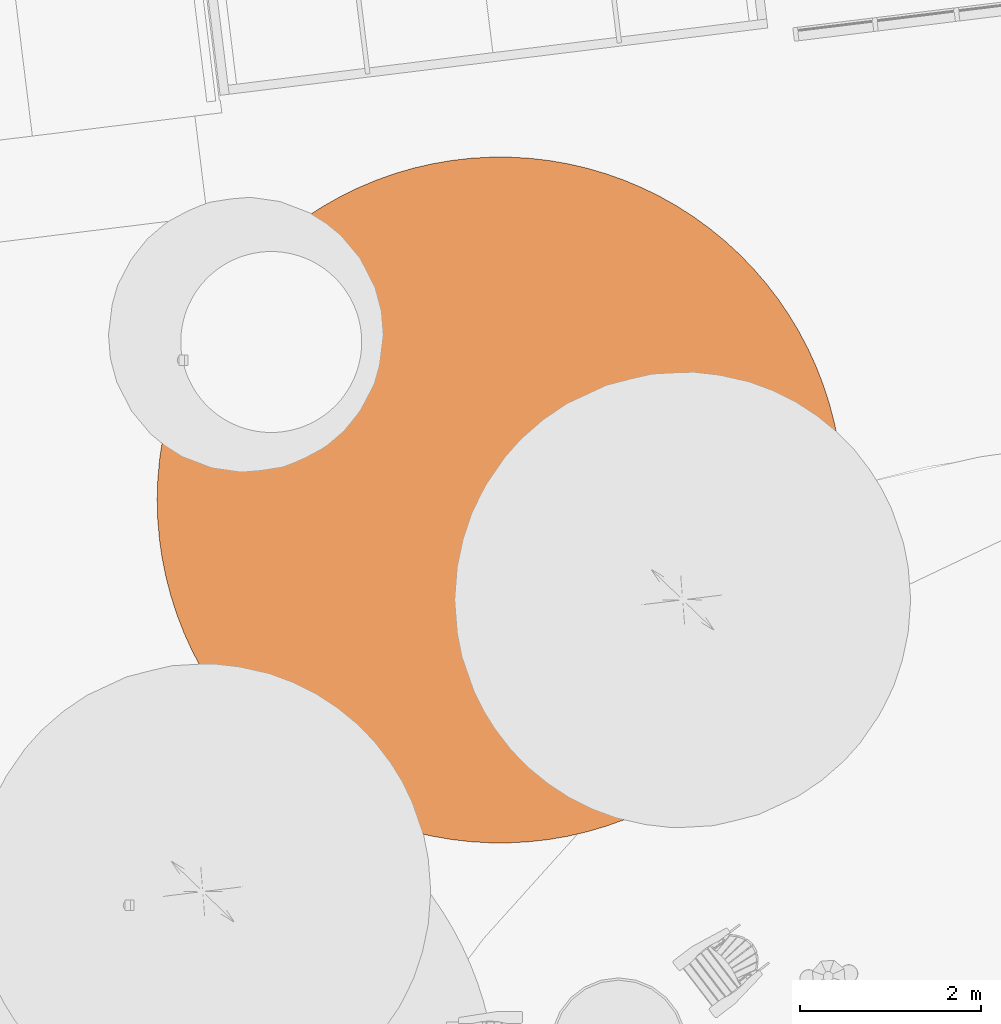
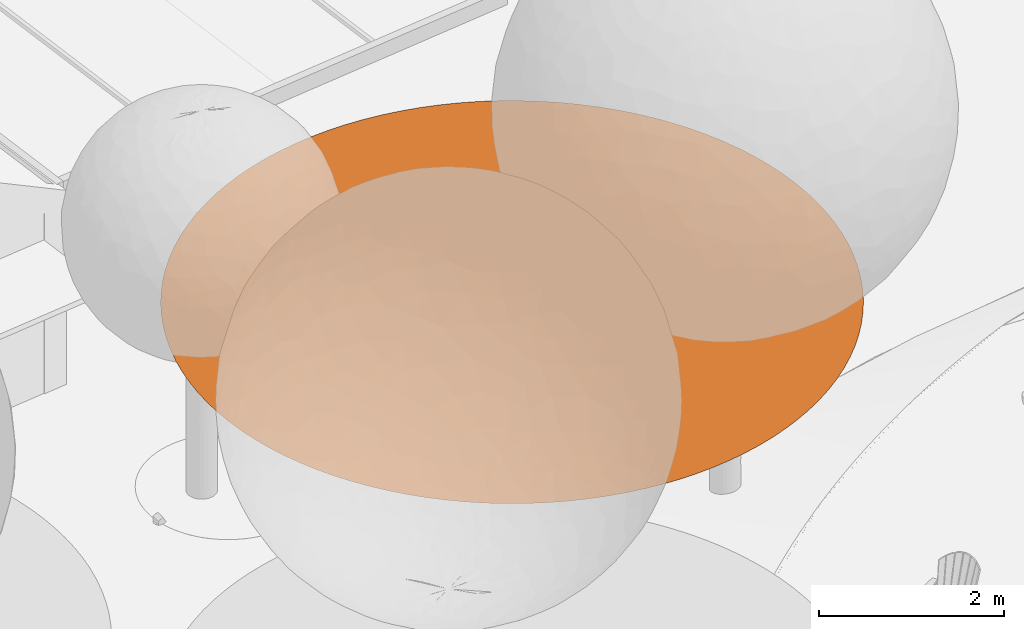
# One storey, part 75 of 75: 1 proxy.
"""IFC2X3 building model written with IfcOpenShell, lengths in metres."""

import ifcopenshell
import ifcopenshell.guid

model = None  # the IFC model being written
_history = None  # IfcOwnerHistory: only IFC2X3 demands one
_inside = {}  # id of a spatial element -> (the spatial element, [elements in it])
_under = {}  # id of a project, library or spatial element -> (it, [spatial elements below it])
_declared = {}  # id of a project -> (the project, [libraries it declares])
_typed = {}  # id of a type object -> (the type object, [elements of that type])
_made_of = {}  # id of a material, layer set ... -> (it, [elements and type objects made of it])


def new_model(schema):
    """Start an empty IFC model of exactly this schema.

    Asked for "IFC4X3", IfcOpenShell would pick the latest addendum, in which some entities
    have other attributes; the version numbers below select the first issue.
    IFC2X3 requires an IfcOwnerHistory on every rooted entity: one is made here for all.
    """
    global model, _history
    if schema == "IFC4X3":
        model = ifcopenshell.file(schema_version=(4, 3, 0, 0))
    else:
        model = ifcopenshell.file(schema=schema)
    _inside.clear()
    _under.clear()
    _declared.clear()
    _typed.clear()
    _made_of.clear()
    _history = None
    if model.schema == "IFC2X3":
        org = make("IfcOrganization", Name="unknown")
        user = make(
            "IfcPersonAndOrganization",
            ThePerson=make("IfcPerson", FamilyName="unknown"),
            TheOrganization=org,
        )
        app = make(
            "IfcApplication",
            ApplicationDeveloper=org,
            Version="unknown",
            ApplicationFullName="unknown",
            ApplicationIdentifier="unknown",
        )
        _history = make(
            "IfcOwnerHistory",
            OwningUser=user,
            OwningApplication=app,
            ChangeAction="ADDED",
            CreationDate=0,
        )
    return model


def make(cls, **values):
    """One entity of the class cls with the attributes given. An attribute that is None is left unset."""
    return model.create_entity(
        cls, **{name: value for name, value in values.items() if value is not None}
    )


def entity(cls, *values):
    """Any entity or typed value of the class cls, its attributes in the order of the schema. None: left unset."""
    e = model.create_entity(cls)
    for i, value in enumerate(values):
        if value is not None:
            e[i] = value
    return e


def rooted(cls, **values):
    """An entity with a GlobalId (a new one), such as an element, a storey or a relation."""
    return make(cls, GlobalId=ifcopenshell.guid.new(), OwnerHistory=_history, **values)


def si_unit(unit_type, name, prefix=None):
    """IfcSIUnit, for example si_unit("LENGTHUNIT", "METRE", prefix="MILLI")."""
    return make("IfcSIUnit", UnitType=unit_type, Prefix=prefix, Name=name)


def converted_unit(unit_type, name, factor, base, dimensions=None, offset=None):
    """IfcConversionBasedUnit, such as the inch: factor (a typed value) times the base unit."""
    return make(
        "IfcConversionBasedUnit"
        if offset is None
        else "IfcConversionBasedUnitWithOffset",
        ConversionOffset=offset,
        Dimensions=None
        if dimensions is None
        else entity("IfcDimensionalExponents", *dimensions),
        UnitType=unit_type,
        Name=name,
        ConversionFactor=make(
            "IfcMeasureWithUnit", ValueComponent=factor, UnitComponent=base
        ),
    )


def derived_unit(unit_type, elements):
    """IfcDerivedUnit: a product of units, each with its exponent."""
    return make(
        "IfcDerivedUnit",
        Elements=[
            make("IfcDerivedUnitElement", Unit=unit, Exponent=power)
            for unit, power in elements
        ],
        UnitType=unit_type,
    )


def assignment(units):
    """IfcUnitAssignment: the units of a project."""
    return None if units is None else make("IfcUnitAssignment", Units=units)


def point(xyz):
    """IfcCartesianPoint."""
    return None if xyz is None else make("IfcCartesianPoint", Coordinates=xyz)


def direction(xyz):
    """IfcDirection."""
    return None if xyz is None else make("IfcDirection", DirectionRatios=xyz)


def frame(location, z_axis=None, x_axis=None):
    """IfcAxis2Placement3D, a coordinate frame: its origin and axes. An axis left out is left unset."""
    return make(
        "IfcAxis2Placement3D",
        Location=point(location),
        Axis=direction(z_axis),
        RefDirection=direction(x_axis),
    )


def origin():
    """The frame at (0, 0, 0) with its axes left unset."""
    return frame((0.0, 0.0, 0.0))


def place(relative_to, where):
    """IfcLocalPlacement: puts the frame where relative to a parent placement (None: the world)."""
    return make(
        "IfcLocalPlacement", PlacementRelTo=relative_to, RelativePlacement=where
    )


def context(
    kind, dimensions, precision=None, world=None, true_north=None, identifier=None
):
    """IfcGeometricRepresentationContext, for example the 3D "Model" context."""
    return make(
        "IfcGeometricRepresentationContext",
        ContextIdentifier=identifier,
        ContextType=kind,
        CoordinateSpaceDimension=dimensions,
        Precision=precision,
        WorldCoordinateSystem=world,
        TrueNorth=true_north,
    )


def subcontext(parent, identifier, kind, view, scale=None):
    """IfcGeometricRepresentationSubContext, for example "Body" below "Model"."""
    return make(
        "IfcGeometricRepresentationSubContext",
        ContextIdentifier=identifier,
        ContextType=kind,
        ParentContext=parent,
        TargetScale=scale,
        TargetView=view,
    )


def project(units=None, contexts=None):
    """IfcProject with its units and contexts."""
    return rooted(
        "IfcProject",
        Name="project",
        RepresentationContexts=contexts,
        UnitsInContext=assignment(units),
    )


def spatial(cls, under=None, at=None, **own):
    """A site, building, storey or space (cls), placed at a placement, below another one or the project."""
    s = rooted(cls, ObjectPlacement=at, **own)
    if under is not None:
        _under.setdefault(under.id(), (under, []))[1].append(s)
    return s


def faces_of(points, faces, orient=None, outer=None):
    """IfcFace entities. A face is a list of loops; a loop is a list of indices into points, from 0.

    orient and outer hold one flag for each loop. By default every Orientation is true, the
    first loop of a face is its IfcFaceOuterBound and the others are IfcFaceBound.
    """
    made = []
    for i, loops in enumerate(faces):
        bounds = []
        for j, loop in enumerate(loops):
            is_outer = j == 0 if outer is None else outer[i][j]
            bounds.append(
                make(
                    "IfcFaceOuterBound" if is_outer else "IfcFaceBound",
                    Bound=make("IfcPolyLoop", Polygon=[points[k] for k in loop]),
                    Orientation=True if orient is None else orient[i][j],
                )
            )
        made.append(make("IfcFace", Bounds=bounds))
    return made


def face_set(faces, orient=None, outer=None):
    """The faces of one IfcConnectedFaceSet. surface_model builds it on its shared points."""
    return ("IfcConnectedFaceSet", faces, orient, outer)


def surface_model(cls, points, shells):
    """IfcFaceBasedSurfaceModel or IfcShellBasedSurfaceModel (cls): surfaces that need not close."""
    shared = [point(p) for p in points]
    made = [make(c, CfsFaces=faces_of(shared, fs, o, b)) for c, fs, o, b in shells]
    if cls == "IfcFaceBasedSurfaceModel":
        return make(cls, FbsmFaces=made)
    return make(cls, SbsmBoundary=made)


def shape(context_of_items, identifier, shape_type, items):
    """IfcShapeRepresentation: the items that make up one representation, for example the "Body"."""
    return make(
        "IfcShapeRepresentation",
        ContextOfItems=context_of_items,
        RepresentationIdentifier=identifier,
        RepresentationType=shape_type,
        Items=items,
    )


def source(mapping_origin, context_of_items, identifier, shape_type, items):
    """IfcRepresentationMap: a shape defined once, which mapped items show again and again."""
    return make(
        "IfcRepresentationMap",
        MappingOrigin=mapping_origin,
        MappedRepresentation=shape(context_of_items, identifier, shape_type, items),
    )


def transform(
    local_origin,
    x_axis=None,
    y_axis=None,
    z_axis=None,
    scale=None,
    scale2=None,
    scale3=None,
    uniform=True,
):
    """IfcCartesianTransformationOperator3D, or its non-uniform kind. x_axis, y_axis, z_axis: its Axis1, 2, 3."""
    if uniform:
        return make(
            "IfcCartesianTransformationOperator3D",
            Axis1=direction(x_axis),
            Axis2=direction(y_axis),
            LocalOrigin=point(local_origin),
            Scale=scale,
            Axis3=direction(z_axis),
        )
    return make(
        "IfcCartesianTransformationOperator3DnonUniform",
        Axis1=direction(x_axis),
        Axis2=direction(y_axis),
        LocalOrigin=point(local_origin),
        Scale=scale,
        Axis3=direction(z_axis),
        Scale2=scale2,
        Scale3=scale3,
    )


def mapped(mapping_source, mapping_target):
    """IfcMappedItem: shows the shape of a source again, moved by a transform."""
    return make(
        "IfcMappedItem", MappingSource=mapping_source, MappingTarget=mapping_target
    )


def material(Name=None, Category=None):
    """IfcMaterial."""
    return make("IfcMaterial", Name=Name, Category=Category)


def made_of(thing, what):
    """Note that an element or type object is made of a material, layer set ...; save() writes the relation."""
    if what is not None:
        _made_of.setdefault(what.id(), (what, []))[1].append(thing)
    return thing


def type_object(cls, material=None, **own):
    """A type object (cls), such as IfcWallType, which elements share."""
    return made_of(rooted(cls, **own), material)


def type_shapes(of_type, sources):
    """Give a type object the sources (RepresentationMaps) that its elements show as mapped items."""
    of_type.RepresentationMaps = sources


def element(
    cls,
    number,
    at=None,
    inside=None,
    cuts=None,
    type_object=None,
    material=None,
    context=None,
    identifier="Body",
    shape_type=None,
    held_by="IfcProductDefinitionShape",
    body=None,
    shapes=None,
    **own,
):
    """One element of the class cls, such as IfcWall. Its Tag is "e" and its number.

    at: its placement. inside: the storey or other place that contains it. cuts: it is an
    opening in that element (IfcRelVoidsElement). A single representation is given by context,
    identifier, shape_type and body (its items); several are given by shapes. held_by: the class
    of the entity that holds the representations. save() writes the other relations.
    """
    e = rooted(cls, Tag="e%d" % number, ObjectPlacement=at, **own)
    if body is not None:
        shapes = [shape(context, identifier, shape_type, body)]
    if shapes is not None:
        e.Representation = make(held_by, Representations=shapes)
    if inside is not None:
        _inside.setdefault(inside.id(), (inside, []))[1].append(e)
    if cuts is not None:
        rooted(
            "IfcRelVoidsElement", RelatingBuildingElement=cuts, RelatedOpeningElement=e
        )
    if type_object is not None:
        _typed.setdefault(type_object.id(), (type_object, []))[1].append(e)
    return made_of(e, material)


def aggregate(whole, parts):
    """IfcRelAggregates: a whole, such as a stair, and the parts it consists of."""
    return rooted("IfcRelAggregates", RelatingObject=whole, RelatedObjects=parts)


def save(model, path):
    """Write the relations noted so far, then the file.

    IfcRelAggregates (storeys below a building ...), IfcRelContainedInSpatialStructure (elements
    in a storey), IfcRelDefinesByType, IfcRelAssociatesMaterial and IfcRelDeclares: one each for
    every whole, place, type object, material and project.
    """
    for whole, parts in _under.values():
        aggregate(whole, parts)
    for where, things in _inside.values():
        rooted(
            "IfcRelContainedInSpatialStructure",
            RelatedElements=things,
            RelatingStructure=where,
        )
    for kind, things in _typed.values():
        rooted("IfcRelDefinesByType", RelatedObjects=things, RelatingType=kind)
    for what, things in _made_of.values():
        rooted("IfcRelAssociatesMaterial", RelatedObjects=things, RelatingMaterial=what)
    for by, libraries in _declared.values():
        rooted("IfcRelDeclares", RelatingContext=by, RelatedDefinitions=libraries)
    model.write(path)


model = new_model("IFC2X3")

# Units and contexts
model_context = context("Model", 3, precision=1e-05, world=origin(), true_north=direction((6.123031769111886e-17, 1.0)))
body_context = subcontext(model_context, "Body", "Model", "MODEL_VIEW")
ifc_project = project(units=[si_unit("LENGTHUNIT", "METRE"), si_unit("AREAUNIT", "SQUARE_METRE"), si_unit("VOLUMEUNIT", "CUBIC_METRE"), converted_unit("PLANEANGLEUNIT", "DEGREE", entity("IfcRatioMeasure", 0.017453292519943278), si_unit("PLANEANGLEUNIT", "RADIAN"), dimensions=[0, 0, 0, 0, 0, 0, 0]), si_unit("MASSUNIT", "GRAM", prefix="KILO"), derived_unit("MASSDENSITYUNIT", [(si_unit("MASSUNIT", "GRAM", prefix="KILO"), 1), (si_unit("LENGTHUNIT", "METRE"), -3)]), derived_unit("IONCONCENTRATIONUNIT", [(si_unit("MASSUNIT", "GRAM", prefix="KILO"), 1), (si_unit("LENGTHUNIT", "METRE"), -3)]), derived_unit("MOMENTOFINERTIAUNIT", [(si_unit("LENGTHUNIT", "METRE"), 4)]), si_unit("TIMEUNIT", "SECOND"), si_unit("FREQUENCYUNIT", "HERTZ"), si_unit("THERMODYNAMICTEMPERATUREUNIT", "DEGREE_CELSIUS"), derived_unit("THERMALTRANSMITTANCEUNIT", [(si_unit("MASSUNIT", "GRAM", prefix="KILO"), 1), (si_unit("THERMODYNAMICTEMPERATUREUNIT", "KELVIN"), -1), (si_unit("TIMEUNIT", "SECOND"), -3)]), derived_unit("THERMALCONDUCTANCEUNIT", [(si_unit("MASSUNIT", "GRAM", prefix="KILO"), 1), (si_unit("THERMODYNAMICTEMPERATUREUNIT", "KELVIN"), -1), (si_unit("TIMEUNIT", "SECOND"), -3), (si_unit("LENGTHUNIT", "METRE"), 1)]), derived_unit("VOLUMETRICFLOWRATEUNIT", [(si_unit("LENGTHUNIT", "METRE"), 3), (si_unit("TIMEUNIT", "SECOND"), -1)]), derived_unit("MASSFLOWRATEUNIT", [(si_unit("MASSUNIT", "GRAM", prefix="KILO"), 1), (si_unit("TIMEUNIT", "SECOND"), -1)]), derived_unit("ROTATIONALFREQUENCYUNIT", [(si_unit("TIMEUNIT", "SECOND"), -1)]), si_unit("ELECTRICCURRENTUNIT", "AMPERE"), si_unit("ELECTRICVOLTAGEUNIT", "VOLT"), si_unit("POWERUNIT", "WATT"), si_unit("FORCEUNIT", "NEWTON", prefix="KILO"), si_unit("ILLUMINANCEUNIT", "LUX"), si_unit("LUMINOUSFLUXUNIT", "LUMEN"), si_unit("LUMINOUSINTENSITYUNIT", "CANDELA"), derived_unit("USERDEFINED", [(si_unit("MASSUNIT", "GRAM", prefix="KILO"), -1), (si_unit("LENGTHUNIT", "METRE"), -2), (si_unit("TIMEUNIT", "SECOND"), 3), (si_unit("LUMINOUSFLUXUNIT", "LUMEN"), 1)]), derived_unit("USERDEFINED", [(si_unit("MASSUNIT", "GRAM", prefix="KILO"), 1), (si_unit("TIMEUNIT", "SECOND"), -3), (si_unit("LENGTHUNIT", "METRE"), 3), (si_unit("ELECTRICCURRENTUNIT", "AMPERE"), -2)]), derived_unit("SOUNDPOWERUNIT", [(si_unit("MASSUNIT", "GRAM", prefix="KILO"), 1), (si_unit("TIMEUNIT", "SECOND"), -3), (si_unit("LENGTHUNIT", "METRE"), 2)]), derived_unit("SOUNDPRESSUREUNIT", [(si_unit("MASSUNIT", "GRAM", prefix="KILO"), 1), (si_unit("LENGTHUNIT", "METRE"), -1), (si_unit("TIMEUNIT", "SECOND"), -2)]), derived_unit("LINEARVELOCITYUNIT", [(si_unit("LENGTHUNIT", "METRE"), 1), (si_unit("TIMEUNIT", "SECOND"), -1)]), si_unit("PRESSUREUNIT", "PASCAL"), derived_unit("USERDEFINED", [(si_unit("MASSUNIT", "GRAM", prefix="KILO"), 1), (si_unit("LENGTHUNIT", "METRE"), -2), (si_unit("TIMEUNIT", "SECOND"), -2)]), derived_unit("LINEARFORCEUNIT", [(si_unit("MASSUNIT", "GRAM", prefix="KILO"), 1), (si_unit("TIMEUNIT", "SECOND"), -2)]), derived_unit("PLANARFORCEUNIT", [(si_unit("MASSUNIT", "GRAM", prefix="KILO"), 1), (si_unit("LENGTHUNIT", "METRE"), -1), (si_unit("TIMEUNIT", "SECOND"), -2)]), derived_unit("SPECIFICHEATCAPACITYUNIT", [(si_unit("THERMODYNAMICTEMPERATUREUNIT", "KELVIN"), -1), (si_unit("LENGTHUNIT", "METRE"), 2), (si_unit("TIMEUNIT", "SECOND"), -2)]), derived_unit("HEATINGVALUEUNIT", [(si_unit("LENGTHUNIT", "METRE"), 2), (si_unit("TIMEUNIT", "SECOND"), -2)]), derived_unit("VAPORPERMEABILITYUNIT", [(si_unit("LENGTHUNIT", "METRE"), -1), (si_unit("TIMEUNIT", "SECOND"), 1)]), derived_unit("DYNAMICVISCOSITYUNIT", [(si_unit("MASSUNIT", "GRAM", prefix="KILO"), 1), (si_unit("TIMEUNIT", "SECOND"), -1), (si_unit("LENGTHUNIT", "METRE"), -1)]), derived_unit("THERMALEXPANSIONCOEFFICIENTUNIT", [(si_unit("THERMODYNAMICTEMPERATUREUNIT", "KELVIN"), -1)]), derived_unit("MODULUSOFELASTICITYUNIT", [(si_unit("MASSUNIT", "GRAM", prefix="KILO"), 1), (si_unit("LENGTHUNIT", "METRE"), -1), (si_unit("TIMEUNIT", "SECOND"), -2)]), derived_unit("ISOTHERMALMOISTURECAPACITYUNIT", [(si_unit("LENGTHUNIT", "METRE"), 3), (si_unit("MASSUNIT", "GRAM", prefix="KILO"), -1)]), derived_unit("MOISTUREDIFFUSIVITYUNIT", [(si_unit("TIMEUNIT", "SECOND"), -1), (si_unit("LENGTHUNIT", "METRE"), 2)])], contexts=[model_context])

# Site, building, storey
site_placement = place(None, origin())
site = spatial("IfcSite", under=ifc_project, at=site_placement, Name="Default", CompositionType="ELEMENT")
building_placement = place(site_placement, origin())
building = spatial("IfcBuilding", under=site, at=building_placement, Name="Projeto", CompositionType="ELEMENT")
storey_placement = place(building_placement, origin())
storey = spatial("IfcBuildingStorey", under=building, at=storey_placement, Name="Nível 1", CompositionType="ELEMENT", Elevation=0.0)

# Proxy
ifc_material = material(Name="<Unnamed>")
building_element_proxy_type = type_object("IfcBuildingElementProxyType", Name="Arvore simplificada:Arvore simplificada", PredefinedType="NOTDEFINED", material=ifc_material)
shared_shape = source(origin(), body_context, "Body", "SurfaceModel", [
    surface_model("IfcFaceBasedSurfaceModel", [(-3.9544974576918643, -0.18317979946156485, 0.0), (-3.9483138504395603, -0.3996342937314, 0.0), (-3.929783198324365, -0.6153827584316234, 0.0), (-3.8989659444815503, -0.8297214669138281, 0.0), (-3.855962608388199, -1.0419512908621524, 0.0), (-3.8009134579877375, -1.2513799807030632, 0.0), (-3.733998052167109, -1.4573244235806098, 0.0), (-3.655434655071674, -1.6591128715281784, 0.0), (-3.5654795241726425, -1.8560871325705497, 0.0), (-3.4644260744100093, -2.0476047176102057, 0.0), (-3.3526039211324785, -2.2330409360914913, 0.0), (-3.2303778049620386, -2.411790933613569, 0.0), (-3.098146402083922, -2.583271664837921, 0.0), (-2.9563410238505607, -2.7469237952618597, 0.0), (-2.8054242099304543, -2.9022135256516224, 0.0), (-2.6458882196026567, -3.048634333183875, 0.0), (-2.4782534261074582, -3.1857086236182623, 0.0), (-2.3030666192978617, -3.3129892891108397, 0.0), (-2.12089922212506, -3.430061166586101, 0.0), (-1.93234542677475, -3.5365423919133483, 0.0), (-1.7380202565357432, -3.632085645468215, 0.0), (-1.5385575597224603, -3.7163792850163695, 0.0), (-1.3346079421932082, -3.789148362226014, 0.0), (-1.1268366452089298, -3.8501555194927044, 0.0), (-0.9159213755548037, -3.8992017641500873, 0.0), (-0.7025500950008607, -3.9361271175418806, 0.0), (-0.48741877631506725, -3.9608111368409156, 0.0), (-0.2712291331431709, -3.9731733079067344, 0.0), (-0.054686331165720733, -3.9731733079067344, 0.0), (0.16150331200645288, -3.9608111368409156, 0.0), (0.3766346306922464, -3.9361271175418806, 0.0), (0.5900059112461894, -3.8992017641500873, 0.0), (0.8009211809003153, -3.8501555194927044, 0.0), (1.0086924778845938, -3.789148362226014, 0.0), (1.212642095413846, -3.7163792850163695, 0.0), (1.4121047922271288, -3.632085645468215, 0.0), (1.6064299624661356, -3.5365423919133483, 0.0), (1.7949837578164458, -3.430061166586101, 0.0), (1.9771511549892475, -3.3129892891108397, 0.0), (2.152337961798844, -3.1857086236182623, 0.0), (2.3199727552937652, -3.048634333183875, 0.0), (2.479508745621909, -2.9022135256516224, 0.0), (2.6304255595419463, -2.7469237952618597, 0.0), (2.7722309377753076, -2.583271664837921, 0.0), (2.9044623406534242, -2.411790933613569, 0.0), (3.026688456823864, -2.2330409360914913, 0.0), (3.138510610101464, -2.0476047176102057, 0.0), (3.239564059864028, -1.8560871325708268, 0.0), (3.3295191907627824, -1.6591128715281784, 0.0), (3.4080825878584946, -1.4573244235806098, 0.0), (3.474997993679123, -1.2513799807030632, 0.0), (3.5300471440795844, -1.0419512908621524, 0.0), (3.573050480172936, -0.8297214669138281, 0.0), (3.6038677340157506, -0.6153827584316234, 0.0), (3.622398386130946, -0.3996342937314, 0.0), (3.62858199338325, -0.18317979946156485, 0.0), (3.622398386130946, 0.03327469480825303, 0.0), (3.6038677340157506, 0.24902315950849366, 0.0), (3.573050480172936, 0.4633618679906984, 0.0), (3.5300471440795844, 0.6755916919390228, 0.0), (3.474997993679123, 0.8850203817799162, 0.0), (3.4080825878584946, 1.0909648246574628, 0.0), (3.3295191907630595, 1.2927532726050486, 0.0), (3.239564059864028, 1.4897275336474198, 0.0), (3.138510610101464, 1.6812451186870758, 0.0), (3.026688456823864, 1.8666813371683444, 0.0), (2.9044623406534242, 2.0454313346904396, 0.0), (2.7722309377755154, 2.2169120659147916, 0.0), (2.6304255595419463, 2.38056419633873, 0.0), (2.479508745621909, 2.535853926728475, 0.0), (2.3199727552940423, 2.682274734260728, 0.0), (2.152337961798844, 2.819349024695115, 0.0), (1.9771511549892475, 2.946629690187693, 0.0), (1.7949837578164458, 3.063701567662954, 0.0), (1.6064299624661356, 3.1701827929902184, 0.0), (1.4121047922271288, 3.265726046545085, 0.0), (1.212642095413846, 3.3500196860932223, 0.0), (1.0086924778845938, 3.422788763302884, 0.0), (0.8009211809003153, 3.4837959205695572, 0.0), (0.5900059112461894, 3.5328421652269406, 0.0), (0.3766346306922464, 3.5697675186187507, 0.0), (0.16150331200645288, 3.5944515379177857, 0.0), (-0.05468633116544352, 3.606813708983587, 0.0), (-0.27122913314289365, 3.606813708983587, 0.0), (-0.48741877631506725, 3.5944515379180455, 0.0), (-0.7025500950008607, 3.5697675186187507, 0.0), (-0.9159213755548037, 3.5328421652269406, 0.0), (-1.1268366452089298, 3.4837959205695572, 0.0), (-1.3346079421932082, 3.422788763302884, 0.0), (-1.5385575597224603, 3.3500196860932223, 0.0), (-1.7380202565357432, 3.265726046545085, 0.0), (-1.93234542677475, 3.1701827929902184, 0.0), (-2.12089922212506, 3.063701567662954, 0.0), (-2.3030666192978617, 2.946629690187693, 0.0), (-2.4782534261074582, 2.819349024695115, 0.0), (-2.6458882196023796, 2.682274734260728, 0.0), (-2.8054242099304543, 2.535853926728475, 0.0), (-2.9563410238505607, 2.38056419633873, 0.0), (-3.098146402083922, 2.2169120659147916, 0.0), (-3.2303778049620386, 2.0454313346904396, 0.0), (-3.3526039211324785, 1.8666813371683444, 0.0), (-3.4644260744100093, 1.6812451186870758, 0.0), (-3.5654795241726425, 1.4897275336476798, 0.0), (-3.6554346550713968, 1.2927532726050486, 0.0), (-3.733998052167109, 1.0909648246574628, 0.0), (-3.8009134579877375, 0.8850203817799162, 0.0), (-3.855962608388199, 0.6755916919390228, 0.0), (-3.8989659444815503, 0.4633618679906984, 0.0), (-3.929783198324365, 0.24902315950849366, 0.0), (-3.9483138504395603, 0.03327469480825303, 0.0)], [face_set([[[0, 1, 2, 3, 4, 5, 6, 7, 8, 9, 10, 11, 12, 13, 14, 15, 16, 17, 18, 19, 20, 21, 22, 23, 24, 25, 26, 27, 28, 29, 30, 31, 32, 33, 34, 35, 36, 37, 38, 39, 40, 41, 42, 43, 44, 45, 46, 47, 48, 49, 50, 51, 52, 53, 54, 55, 56, 57, 58, 59, 60, 61, 62, 63, 64, 65, 66, 67, 68, 69, 70, 71, 72, 73, 74, 75, 76, 77, 78, 79, 80, 81, 82, 83, 84, 85, 86, 87, 88, 89, 90, 91, 92, 93, 94, 95, 96, 97, 98, 99, 100, 101, 102, 103, 104, 105, 106, 107, 108, 109]]])]),
])
type_shapes(building_element_proxy_type, [shared_shape])
proxy_placement = place(storey_placement, frame((5.517836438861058, 24.42580104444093, 0.0), z_axis=(0.0, 0.0, 1.0), x_axis=(0.9422539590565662, 0.3348992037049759, 0.0)))
element("IfcBuildingElementProxy", 1, at=proxy_placement, inside=storey, type_object=building_element_proxy_type, material=ifc_material, Name="Arvore simplificada:Arvore simplificada", ObjectType="Arvore simplificada:Arvore simplificada", context=body_context, shape_type="MappedRepresentation", body=[
    mapped(shared_shape, transform((0.0, 0.0, 0.0), scale=1.0)),
])

save(model, "model.ifc")
